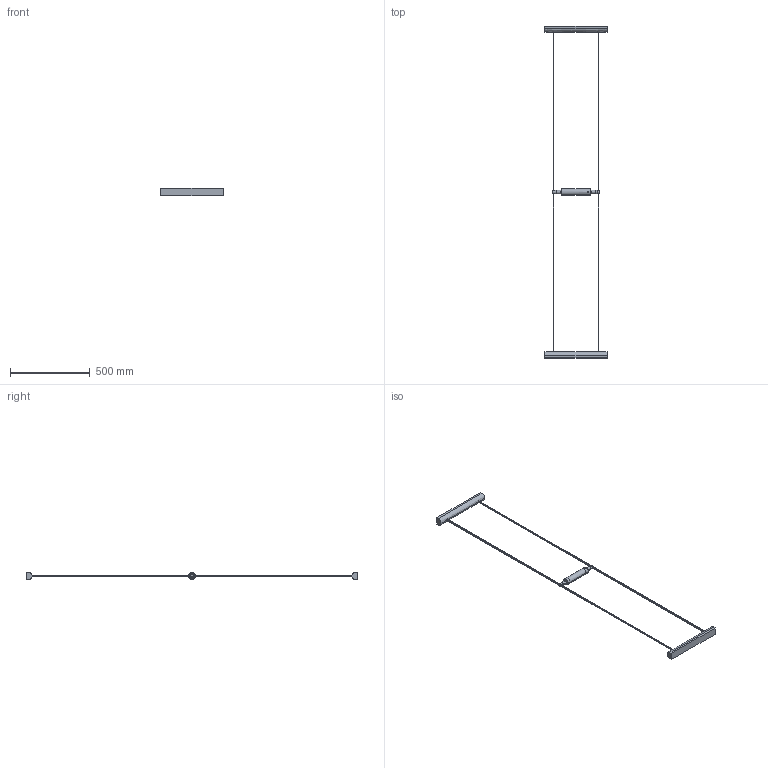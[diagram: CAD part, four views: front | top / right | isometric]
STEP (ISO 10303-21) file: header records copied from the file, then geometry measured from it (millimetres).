
FILE_DESCRIPTION((''),'2;1');
FILE_NAME('CINI&NILS - newTensoGradi 3D.stp','2011-02-17T14:51:17',(''),(''),'AutoCAD STEP 2000i','AutoCAD 2000i',', , ');
FILE_SCHEMA(('CONFIG_CONTROL_DESIGN'));
Length unit declared in the file: millimetre
Products named in the file (1): CINI&NILS - NEWTENSOGRADI 3D
Bounding box: 388 x 2076 x 48 mm (x, y, z)
Volume: 1642291.2 mm3; surface area: 272096.9 mm2
Topology: 2 solids, 2 shells, 141 faces, 377 edges, 252 vertices
Faces by surface type: bspline 61, cylinder 48, plane 26, cone 4, torus 2
Entity records: 6629 total; most frequent: CARTESIAN_POINT 3265, ORIENTED_EDGE 750, DIRECTION 584, EDGE_CURVE 375, VERTEX_POINT 252, AXIS2_PLACEMENT_3D 221, EDGE_LOOP 159, VECTOR 142
